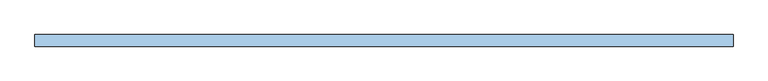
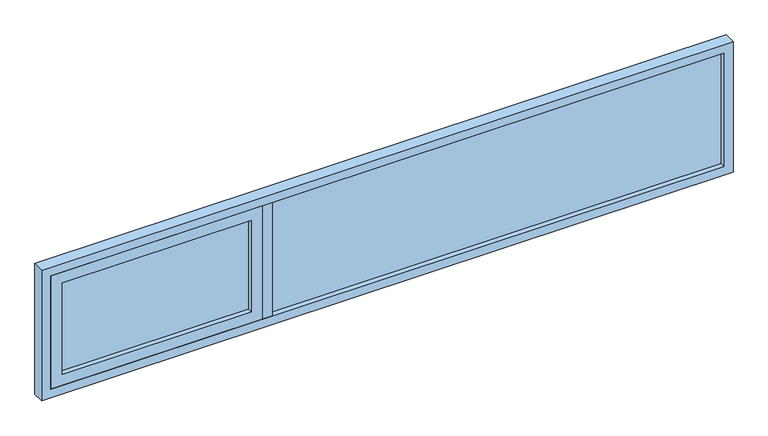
"""IFC4 building model written with IfcOpenShell, lengths in millimetres: window geometry, VENT_ALUM_PROY_LATERAL : VD-21 / PROYECC LATERAL SALA 3.0 X 0.6."""

from ifc_helpers import new_model, si_unit, frame, origin, place, context, project, spatial, polyline, outline, extrude, source, transform, mapped, element, save


def window_07e9aac3(model_context):
    return source(origin(), model_context, "Body", "SweptSolid", [
        extrude(outline(polyline([(2092.5, 3.0), (2092.5, -3.0), (132.5, -3.0), (132.5, 3.0), (2092.5, 3.0)])), frame((0.0, 0.0, 2040.0), z_axis=(0.0, 0.0, 1.0), x_axis=(1.0, 0.0, 0.0)), (0.0, 0.0, 1.0), 520.0),
        extrude(outline(polyline([(2600.0, -867.5), (2000.0, -867.5), (2000.0, 2132.5), (2600.0, 2132.5), (2600.0, -867.5)]), holes=[polyline([(2040.0, -827.5), (2560.0, -827.5), (2560.0, 2092.5), (2040.0, 2092.5), (2040.0, -827.5)])]), frame((0.0, -25.0, 0.0), z_axis=(0.0, 1.0, 0.0), x_axis=(0.0, 0.0, 1.0)), (0.0, 0.0, 1.0), 50.0),
        extrude(outline(polyline([(92.5, -25.0), (92.5, 25.0), (132.5, 25.0), (132.5, -25.0), (92.5, -25.0)])), frame((0.0, 0.0, 2040.0), z_axis=(0.0, 0.0, 1.0), x_axis=(1.0, 0.0, 0.0)), (0.0, 0.0, 1.0), 520.0),
        extrude(outline(polyline([(42.5, 3.0), (42.5, -3.0), (-777.5, -3.0), (-777.5, 3.0), (42.5, 3.0)])), frame((0.0, 0.0, 2080.0), z_axis=(0.0, 0.0, 1.0), x_axis=(1.0, 0.0, 0.0)), (0.0, 0.0, 1.0), 430.0),
        extrude(outline(polyline([(2560.0, -827.5), (2040.0, -827.5), (2040.0, 92.5), (2560.0, 92.5), (2560.0, -827.5)]), holes=[polyline([(2090.0, -777.5), (2510.0, -777.5), (2510.0, 42.5), (2090.0, 42.5), (2090.0, -777.5)])]), frame((0.0, -25.0, 0.0), z_axis=(0.0, 1.0, 0.0), x_axis=(0.0, 0.0, 1.0)), (0.0, 0.0, 1.0), 50.0),
    ])


if __name__ == "__main__":
    model = new_model("IFC4")
    model_context = context("Model", 3, world=origin())
    ifc_project = project(units=[si_unit("LENGTHUNIT", "METRE", prefix="MILLI")], contexts=[model_context])
    site = spatial("IfcSite", under=ifc_project)
    building = spatial("IfcBuilding", under=site)
    placement = place(None, origin())
    window_shape = window_07e9aac3(model_context)
    element("IfcWindow", 1, ObjectType="VENT_ALUM_PROY_LATERAL : VD-21 / PROYECC LATERAL SALA 3.0 X 0.6", at=placement, inside=building, context=model_context, shape_type="MappedRepresentation", body=[
        mapped(window_shape, transform((0.0, 0.0, 0.0), x_axis=(1.0, 0.0, 0.0), y_axis=(0.0, 1.0, 0.0), z_axis=(0.0, 0.0, 1.0))),
    ])
    save(model, "model.ifc")
